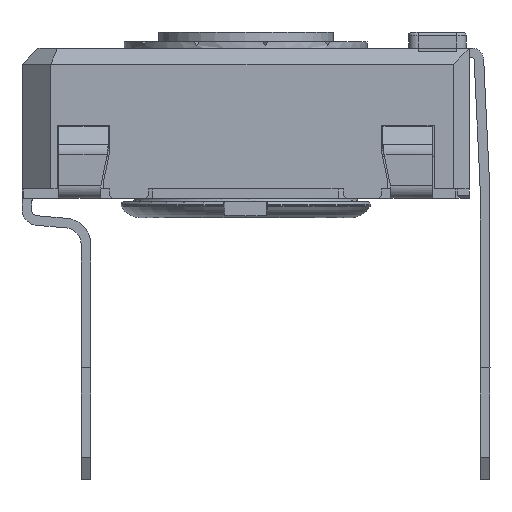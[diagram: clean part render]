
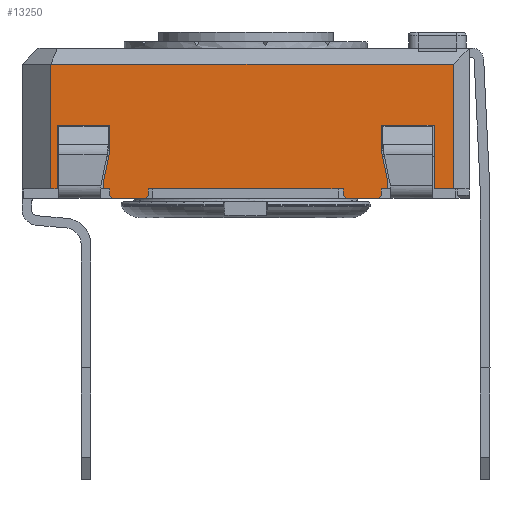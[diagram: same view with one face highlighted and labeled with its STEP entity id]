
A CAD part, left-side view. The second image highlights one B-rep face of the part: STEP entity #13250.
In plain terms, the highlighted planar face has unit normal (-1, 0, 0).
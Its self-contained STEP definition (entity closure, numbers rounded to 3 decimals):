
#1034=FACE_OUTER_BOUND('',#1725,.T.);
#1725=EDGE_LOOP('',(#10582,#10583,#10584,#10585,#10586,#10587,#10588,#10589,
#10590,#10591,#10592,#10593,#10594,#10595,#10596,#10597,#10598,#10599,#10600,
#10601,#10602,#10603,#10604,#10605,#10606,#10607,#10608,#10609));
#2738=LINE('',#20278,#4262);
#2744=LINE('',#20290,#4268);
#2747=LINE('',#20297,#4271);
#2752=LINE('',#20306,#4276);
#2772=LINE('',#20347,#4296);
#2786=LINE('',#20373,#4310);
#2790=LINE('',#20380,#4314);
#2805=LINE('',#20409,#4329);
#2808=LINE('',#20415,#4332);
#2813=LINE('',#20425,#4337);
#2816=LINE('',#20431,#4340);
#2819=LINE('',#20437,#4343);
#2837=LINE('',#20472,#4361);
#2849=LINE('',#20494,#4373);
#2852=LINE('',#20500,#4376);
#2889=LINE('',#20634,#4413);
#2892=LINE('',#20640,#4416);
#2918=LINE('',#20687,#4442);
#2923=LINE('',#20697,#4447);
#2925=LINE('',#20700,#4449);
#3050=LINE('',#21011,#4574);
#3052=LINE('',#21016,#4576);
#3055=LINE('',#21020,#4579);
#3057=LINE('',#21024,#4581);
#3060=LINE('',#21032,#4584);
#3061=LINE('',#21034,#4585);
#3062=LINE('',#21035,#4586);
#3063=LINE('',#21036,#4587);
#4262=VECTOR('',#16240,10.);
#4268=VECTOR('',#16248,10.);
#4271=VECTOR('',#16253,10.);
#4276=VECTOR('',#16260,10.);
#4296=VECTOR('',#16294,10.);
#4310=VECTOR('',#16308,10.);
#4314=VECTOR('',#16312,10.);
#4329=VECTOR('',#16339,10.);
#4332=VECTOR('',#16344,10.);
#4337=VECTOR('',#16351,10.);
#4340=VECTOR('',#16356,10.);
#4343=VECTOR('',#16361,10.);
#4361=VECTOR('',#16381,10.);
#4373=VECTOR('',#16395,10.);
#4376=VECTOR('',#16400,10.);
#4413=VECTOR('',#16481,10.);
#4416=VECTOR('',#16486,10.);
#4442=VECTOR('',#16514,10.);
#4447=VECTOR('',#16521,10.);
#4449=VECTOR('',#16525,10.);
#4574=VECTOR('',#16816,10.);
#4576=VECTOR('',#16820,10.);
#4579=VECTOR('',#16825,10.);
#4581=VECTOR('',#16831,10.);
#4584=VECTOR('',#16842,10.);
#4585=VECTOR('',#16843,10.);
#4586=VECTOR('',#16844,10.);
#4587=VECTOR('',#16845,10.);
#5689=VERTEX_POINT('',#20275);
#5690=VERTEX_POINT('',#20277);
#5694=VERTEX_POINT('',#20287);
#5696=VERTEX_POINT('',#20293);
#5698=VERTEX_POINT('',#20296);
#5701=VERTEX_POINT('',#20304);
#5726=VERTEX_POINT('',#20370);
#5727=VERTEX_POINT('',#20372);
#5729=VERTEX_POINT('',#20377);
#5730=VERTEX_POINT('',#20379);
#5737=VERTEX_POINT('',#20406);
#5739=VERTEX_POINT('',#20412);
#5743=VERTEX_POINT('',#20422);
#5745=VERTEX_POINT('',#20428);
#5748=VERTEX_POINT('',#20435);
#5764=VERTEX_POINT('',#20470);
#5773=VERTEX_POINT('',#20492);
#5775=VERTEX_POINT('',#20498);
#5802=VERTEX_POINT('',#20632);
#5803=VERTEX_POINT('',#20637);
#5823=VERTEX_POINT('',#20684);
#5827=VERTEX_POINT('',#20694);
#5901=VERTEX_POINT('',#21008);
#5902=VERTEX_POINT('',#21010);
#5903=VERTEX_POINT('',#21014);
#5904=VERTEX_POINT('',#21015);
#5905=VERTEX_POINT('',#21031);
#5906=VERTEX_POINT('',#21033);
#7233=EDGE_CURVE('',#5690,#5689,#2738,.T.);
#7239=EDGE_CURVE('',#5689,#5694,#2744,.T.);
#7242=EDGE_CURVE('',#5698,#5696,#2747,.T.);
#7247=EDGE_CURVE('',#5701,#5696,#2752,.T.);
#7267=EDGE_CURVE('',#5694,#5698,#2772,.T.);
#7281=EDGE_CURVE('',#5727,#5726,#2786,.T.);
#7285=EDGE_CURVE('',#5730,#5729,#2790,.T.);
#7301=EDGE_CURVE('',#5726,#5737,#2805,.T.);
#7304=EDGE_CURVE('',#5737,#5739,#2808,.T.);
#7309=EDGE_CURVE('',#5739,#5743,#2813,.T.);
#7312=EDGE_CURVE('',#5743,#5745,#2816,.T.);
#7315=EDGE_CURVE('',#5745,#5748,#2819,.T.);
#7333=EDGE_CURVE('',#5748,#5764,#2837,.T.);
#7345=EDGE_CURVE('',#5773,#5764,#2849,.T.);
#7348=EDGE_CURVE('',#5775,#5773,#2852,.T.);
#7397=EDGE_CURVE('',#5802,#5775,#2889,.T.);
#7400=EDGE_CURVE('',#5802,#5803,#2892,.T.);
#7426=EDGE_CURVE('',#5803,#5823,#2918,.T.);
#7431=EDGE_CURVE('',#5823,#5827,#2923,.T.);
#7433=EDGE_CURVE('',#5827,#5690,#2925,.T.);
#7574=EDGE_CURVE('',#5901,#5902,#3050,.T.);
#7576=EDGE_CURVE('',#5903,#5904,#3052,.T.);
#7579=EDGE_CURVE('',#5727,#5901,#3055,.T.);
#7581=EDGE_CURVE('',#5729,#5904,#3057,.T.);
#7584=EDGE_CURVE('',#5701,#5905,#3060,.T.);
#7585=EDGE_CURVE('',#5906,#5905,#3061,.T.);
#7586=EDGE_CURVE('',#5730,#5906,#3062,.T.);
#7587=EDGE_CURVE('',#5903,#5902,#3063,.T.);
#10582=ORIENTED_EDGE('',*,*,#7239,.T.);
#10583=ORIENTED_EDGE('',*,*,#7267,.T.);
#10584=ORIENTED_EDGE('',*,*,#7242,.T.);
#10585=ORIENTED_EDGE('',*,*,#7247,.F.);
#10586=ORIENTED_EDGE('',*,*,#7584,.T.);
#10587=ORIENTED_EDGE('',*,*,#7585,.F.);
#10588=ORIENTED_EDGE('',*,*,#7586,.F.);
#10589=ORIENTED_EDGE('',*,*,#7285,.T.);
#10590=ORIENTED_EDGE('',*,*,#7581,.T.);
#10591=ORIENTED_EDGE('',*,*,#7576,.F.);
#10592=ORIENTED_EDGE('',*,*,#7587,.T.);
#10593=ORIENTED_EDGE('',*,*,#7574,.F.);
#10594=ORIENTED_EDGE('',*,*,#7579,.F.);
#10595=ORIENTED_EDGE('',*,*,#7281,.T.);
#10596=ORIENTED_EDGE('',*,*,#7301,.T.);
#10597=ORIENTED_EDGE('',*,*,#7304,.T.);
#10598=ORIENTED_EDGE('',*,*,#7309,.T.);
#10599=ORIENTED_EDGE('',*,*,#7312,.T.);
#10600=ORIENTED_EDGE('',*,*,#7315,.T.);
#10601=ORIENTED_EDGE('',*,*,#7333,.T.);
#10602=ORIENTED_EDGE('',*,*,#7345,.F.);
#10603=ORIENTED_EDGE('',*,*,#7348,.F.);
#10604=ORIENTED_EDGE('',*,*,#7397,.F.);
#10605=ORIENTED_EDGE('',*,*,#7400,.T.);
#10606=ORIENTED_EDGE('',*,*,#7426,.T.);
#10607=ORIENTED_EDGE('',*,*,#7431,.T.);
#10608=ORIENTED_EDGE('',*,*,#7433,.T.);
#10609=ORIENTED_EDGE('',*,*,#7233,.T.);
#12408=PLANE('',#14143);
#13250=ADVANCED_FACE('',(#1034),#12408,.T.);
#14143=AXIS2_PLACEMENT_3D('',#21030,#16840,#16841);
#16240=DIRECTION('',(0.,0.208,-0.978));
#16248=DIRECTION('',(0.,0.,-1.));
#16253=DIRECTION('',(0.,0.,-1.));
#16260=DIRECTION('',(0.,0.707,0.707));
#16294=DIRECTION('',(0.,-1.,0.));
#16308=DIRECTION('',(0.,-1.,0.));
#16312=DIRECTION('',(0.,-1.,0.));
#16339=DIRECTION('',(0.,0.,1.));
#16344=DIRECTION('',(0.,0.208,0.978));
#16351=DIRECTION('',(0.,0.,1.));
#16356=DIRECTION('',(0.,-1.,0.));
#16361=DIRECTION('',(0.,0.,-1.));
#16381=DIRECTION('',(0.,-1.,0.));
#16395=DIRECTION('',(0.,0.,-1.));
#16400=DIRECTION('',(0.,-1.,0.));
#16481=DIRECTION('',(0.,0.,1.));
#16486=DIRECTION('',(0.,-1.,0.));
#16514=DIRECTION('',(0.,0.,1.));
#16521=DIRECTION('',(0.,-1.,0.));
#16525=DIRECTION('',(0.,0.,-1.));
#16816=DIRECTION('',(0.,0.707,-0.707));
#16820=DIRECTION('',(0.,0.707,0.707));
#16825=DIRECTION('',(0.,0.,-1.));
#16831=DIRECTION('',(0.,0.,-1.));
#16840=DIRECTION('center_axis',(-1.,0.,0.));
#16841=DIRECTION('ref_axis',(0.,0.,1.));
#16842=DIRECTION('',(0.,-1.,0.));
#16843=DIRECTION('',(0.,0.707,-0.707));
#16844=DIRECTION('',(0.,0.,-1.));
#16845=DIRECTION('',(0.,-1.,0.));
#20275=CARTESIAN_POINT('',(-14.467,1.552,0.235));
#20277=CARTESIAN_POINT('',(-14.467,1.352,1.176));
#20278=CARTESIAN_POINT('',(-14.467,1.228,1.757));
#20287=CARTESIAN_POINT('',(-14.467,1.552,0.));
#20290=CARTESIAN_POINT('',(-14.467,1.552,0.));
#20293=CARTESIAN_POINT('',(-14.467,1.352,-0.2));
#20296=CARTESIAN_POINT('',(-14.467,1.352,0.));
#20297=CARTESIAN_POINT('',(-14.467,1.352,0.));
#20304=CARTESIAN_POINT('',(-14.467,1.252,-0.3));
#20306=CARTESIAN_POINT('',(-14.467,-1.436,-2.988));
#20347=CARTESIAN_POINT('',(-14.467,4.102,0.));
#20370=CARTESIAN_POINT('',(-14.467,-7.348,0.));
#20372=CARTESIAN_POINT('',(-14.467,-7.148,0.));
#20373=CARTESIAN_POINT('',(-14.467,4.102,0.));
#20377=CARTESIAN_POINT('',(-14.467,-5.948,0.));
#20379=CARTESIAN_POINT('',(-14.467,0.152,0.));
#20380=CARTESIAN_POINT('',(-14.467,4.102,0.));
#20406=CARTESIAN_POINT('',(-14.467,-7.348,0.235));
#20409=CARTESIAN_POINT('',(-14.467,-7.348,0.118));
#20412=CARTESIAN_POINT('',(-14.467,-7.148,1.176));
#20415=CARTESIAN_POINT('',(-14.467,-7.453,-0.254));
#20422=CARTESIAN_POINT('',(-14.467,-7.148,2.));
#20425=CARTESIAN_POINT('',(-14.467,-7.148,0.588));
#20428=CARTESIAN_POINT('',(-14.467,-8.798,2.));
#20431=CARTESIAN_POINT('',(-14.467,-8.523,2.));
#20435=CARTESIAN_POINT('',(-14.467,-8.798,0.));
#20437=CARTESIAN_POINT('',(-14.467,-8.798,0.));
#20470=CARTESIAN_POINT('',(-14.467,-9.398,0.));
#20472=CARTESIAN_POINT('',(-14.467,-9.595,0.));
#20492=CARTESIAN_POINT('',(-14.467,-9.398,3.9));
#20494=CARTESIAN_POINT('',(-14.467,-9.398,0.));
#20498=CARTESIAN_POINT('',(-14.467,3.202,3.9));
#20500=CARTESIAN_POINT('',(-14.467,-6.398,3.9));
#20632=CARTESIAN_POINT('',(-14.467,3.202,0.));
#20634=CARTESIAN_POINT('',(-14.467,3.202,0.));
#20637=CARTESIAN_POINT('',(-14.467,3.002,0.));
#20640=CARTESIAN_POINT('',(-14.467,-2.985,0.));
#20684=CARTESIAN_POINT('',(-14.467,3.002,2.));
#20687=CARTESIAN_POINT('',(-14.467,3.002,0.));
#20694=CARTESIAN_POINT('',(-14.467,1.352,2.));
#20697=CARTESIAN_POINT('',(-14.467,-3.448,2.));
#20700=CARTESIAN_POINT('',(-14.467,1.352,1.));
#21008=CARTESIAN_POINT('',(-14.467,-7.148,-0.2));
#21010=CARTESIAN_POINT('',(-14.467,-7.048,-0.3));
#21011=CARTESIAN_POINT('',(-14.467,-7.861,0.513));
#21014=CARTESIAN_POINT('',(-14.467,-6.048,-0.3));
#21015=CARTESIAN_POINT('',(-14.467,-5.948,-0.2));
#21016=CARTESIAN_POINT('',(-14.467,-6.911,-1.163));
#21020=CARTESIAN_POINT('',(-14.467,-7.148,0.));
#21024=CARTESIAN_POINT('',(-14.467,-5.948,0.));
#21030=CARTESIAN_POINT('Origin',(-14.467,-9.898,0.));
#21031=CARTESIAN_POINT('',(-14.467,0.252,-0.3));
#21032=CARTESIAN_POINT('',(-14.467,0.152,-0.3));
#21033=CARTESIAN_POINT('',(-14.467,0.152,-0.2));
#21034=CARTESIAN_POINT('',(-14.467,-2.386,2.338));
#21035=CARTESIAN_POINT('',(-14.467,0.152,0.));
#21036=CARTESIAN_POINT('',(-14.467,-7.148,-0.3));
